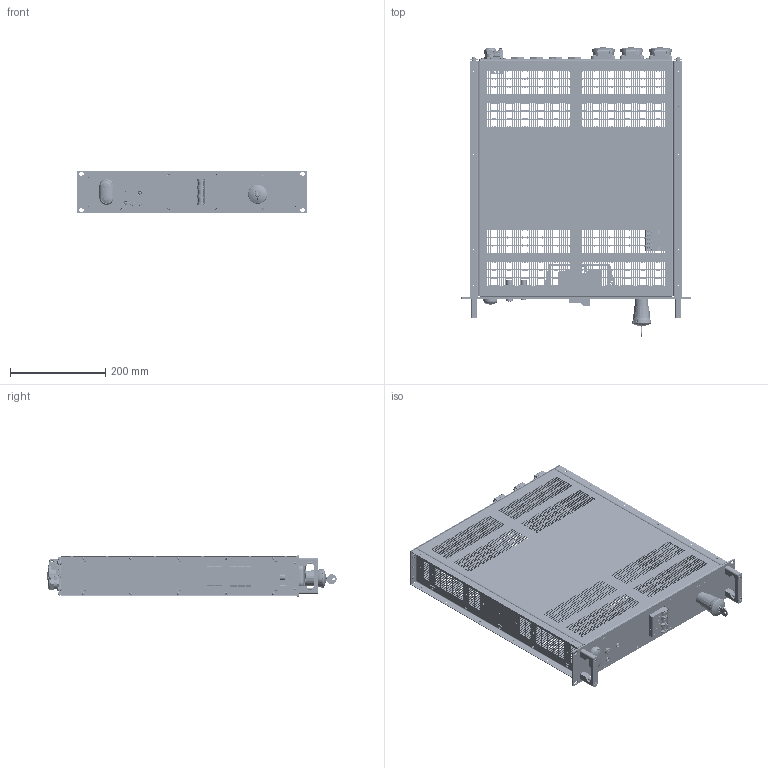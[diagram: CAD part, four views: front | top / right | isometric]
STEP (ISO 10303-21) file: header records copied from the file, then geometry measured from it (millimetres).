
FILE_DESCRIPTION(('STEP AP214'),'1');
FILE_NAME('SE_M3_19Z_2HE_3XSCH_4XGB_3D_01.step','2020-07-10T08:45:12',(' '),(' '),'Spatial InterOp 3D',' ',' ');
FILE_SCHEMA(('AUTOMOTIVE_DESIGN { 1 0 10303 214 1 1 1 1 }'));
Length unit declared in the file: millimetre
Products named in the file (18): 22_DECKEL_3D_03; DIN 965-A; JIS B1111-PNH-Z; DIN 7985-A; 2239_Seitenteil_2HE_3D_01; 2242_SE_2HE_Frontplatte_SI_3D_03_mit_Einbauten; 2240_SE_2HE_Rückwand_Schuko_Kaltg_3D_01_mit_Einbauten; *U233; *U234; *U235; *U236; *U237; 3xM2.5_5x5x12; *U238; AutoCreatedBlock_1113; AutoCreatedBlock_1097
Assembly tree (79 placements, depth 3):
  (unnamed)
    22_DECKEL_3D_03  x2
    DIN 965-A  x8
    JIS B1111-PNH-Z  x20
    DIN 7985-A  x7
    2239_Seitenteil_2HE_3D_01  x2
    2242_SE_2HE_Frontplatte_SI_3D_03_mit_Einbauten
    2240_SE_2HE_Rückwand_Schuko_Kaltg_3D_01_mit_Einbauten
      *U233  x12
      *U234
      *U235  x2
      *U236  x3
      *U237  x8
      3xM2.5_5x5x12  x2
      *U238  x4
      AutoCreatedBlock_1113
    DIN 7985-A  x4
    AutoCreatedBlock_1097
Bounding box: 482.6 x 608.5 x 88.1 mm (x, y, z)
Volume: 1993558.9 mm3; surface area: 1674780.4 mm2
Topology: 198 solids, 198 shells, 25053 faces, 67274 edges, 43097 vertices
Faces by surface type: plane 11583, cylinder 7141, cone 5719, torus 208, sphere 208, bspline 166, extrusion 28
Entity records: 623877 total; most frequent: CARTESIAN_POINT 108929, DIRECTION 79277, ORIENTED_EDGE 78836, EDGE_CURVE 39418, VECTOR 26683, LINE 26655, AXIS2_PLACEMENT_3D 26297, VERTEX_POINT 25694
